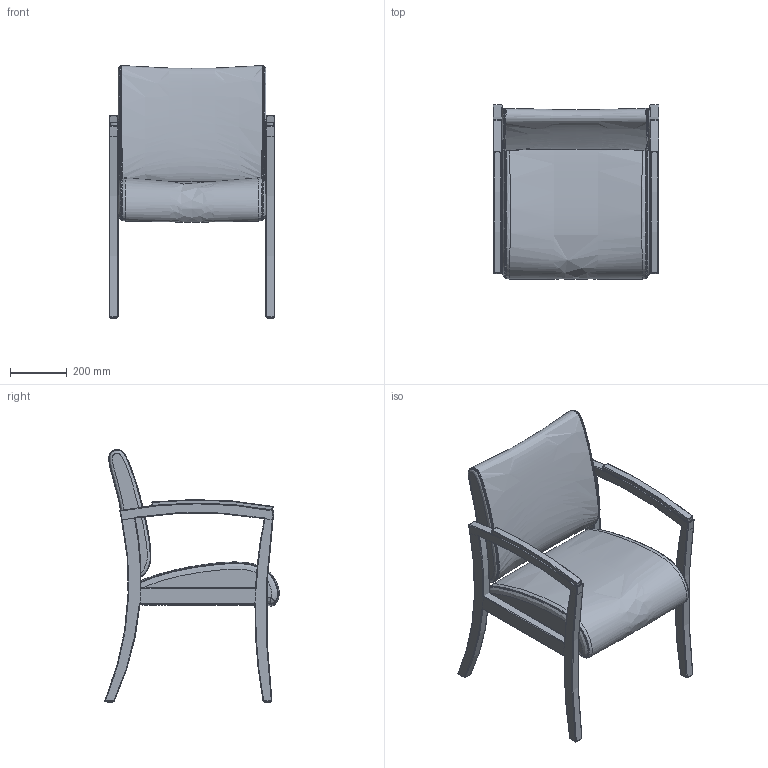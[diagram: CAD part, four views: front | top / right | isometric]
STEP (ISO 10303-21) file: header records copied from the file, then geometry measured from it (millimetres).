
FILE_DESCRIPTION(/* description */ (''),/* implementation_level */ '2;1');
FILE_NAME(/* name */ '460_.step',/* time_stamp */ '2026-05-04T15:09:30-07:00',/* author */ (''),/* organization */ (''),/* preprocessor_version */ 'ST-DEVELOPER v20.1',/* originating_system */ 'Autodesk Translation Framework v14.24.0.0',/* authorisation */ '');
FILE_SCHEMA (('AUTOMOTIVE_DESIGN { 1 0 10303 214 3 1 1 }'));
Products named in the file (2): Protege 460 Original Design Detailed; 460 PROTEGE v1
Assembly tree (1 placements, depth 2):
  Protege 460 Original Design Detailed
    460 PROTEGE v1
Bounding box: 584.2 x 614.26 x 890.89 mm (x, y, z)
Volume: 56386824.4 mm3; surface area: 2353837.7 mm2
Topology: 20 solids, 20 shells, 304 faces, 656 edges, 388 vertices
Faces by surface type: cylinder 100, plane 58, bspline 58, torus 56, sphere 32
Full cylindrical faces by diameter (mm): 19.05 x4
Entity records: 33643 total; most frequent: CARTESIAN_POINT 27403, ORIENTED_EDGE 1304, DIRECTION 1228, EDGE_CURVE 652, AXIS2_PLACEMENT_3D 543, VERTEX_POINT 388, FACE_OUTER_BOUND 304, EDGE_LOOP 304
